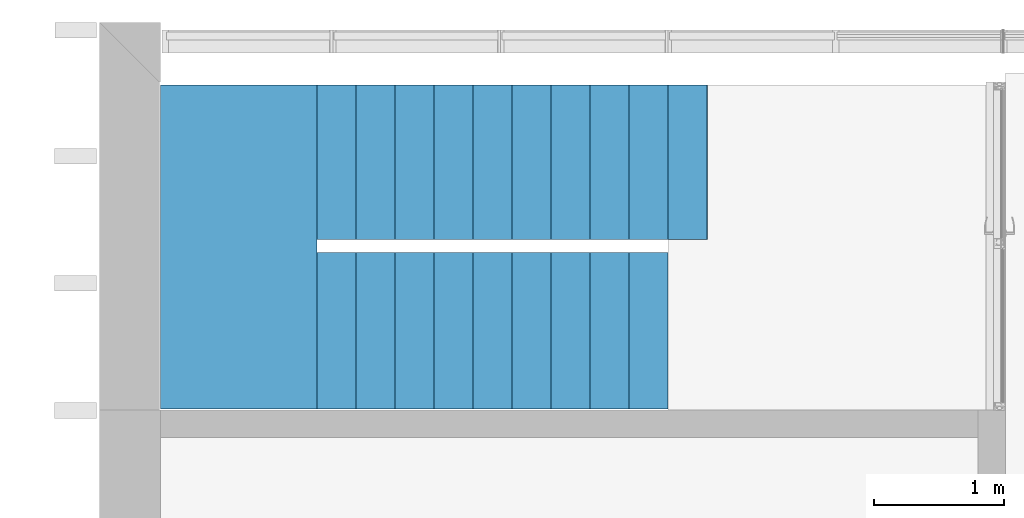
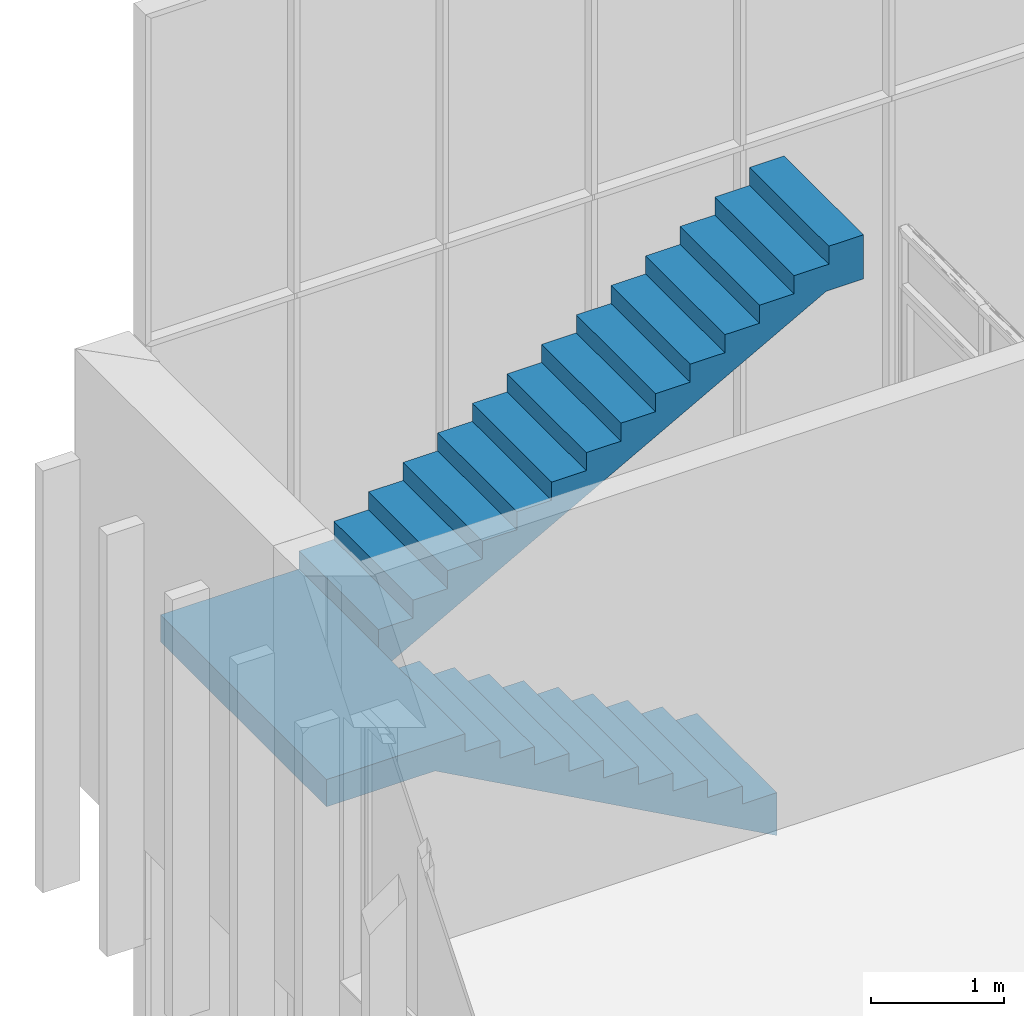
# One storey, part 37 of 62: 1 stair.
"""IFC2X3 building model written with IfcOpenShell, lengths in millimetres."""

from ifc_helpers import new_model, entity, si_unit, converted_unit, derived_unit, money_unit, direction, frame, origin_with_axes, place, context, subcontext, project, spatial, faceted_brep, material, material_list, element, save


model = new_model("IFC2X3")

# Units and contexts
model_context = context("Model", 3, precision=0.01, world=origin_with_axes(), true_north=direction((0.0, 1.0)))
body_context = subcontext(model_context, "Body", "Model", "MODEL_VIEW")
ifc_project = project(units=[si_unit("LENGTHUNIT", "METRE", prefix="MILLI"), si_unit("AREAUNIT", "SQUARE_METRE"), si_unit("VOLUMEUNIT", "CUBIC_METRE"), converted_unit("PLANEANGLEUNIT", "DEGREE", entity("IfcPlaneAngleMeasure", 0.0174532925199), si_unit("PLANEANGLEUNIT", "RADIAN"), dimensions=[0, 0, 0, 0, 0, 0, 0]), si_unit("SOLIDANGLEUNIT", "STERADIAN"), money_unit("EUR"), converted_unit("TIMEUNIT", "Year", entity("IfcTimeMeasure", 31556926.0), si_unit("TIMEUNIT", "SECOND"), dimensions=[0, 0, 1, 0, 0, 0, 0]), si_unit("MASSUNIT", "GRAM", prefix="KILO"), si_unit("THERMODYNAMICTEMPERATUREUNIT", "DEGREE_CELSIUS"), si_unit("LUMINOUSINTENSITYUNIT", "LUMEN"), si_unit("ENERGYUNIT", "JOULE", prefix="MEGA"), derived_unit("THERMALCONDUCTANCEUNIT", [(si_unit("POWERUNIT", "WATT"), 1), (si_unit("LENGTHUNIT", "METRE"), -1), (si_unit("THERMODYNAMICTEMPERATUREUNIT", "KELVIN"), -1)]), derived_unit("SPECIFICHEATCAPACITYUNIT", [(si_unit("ENERGYUNIT", "JOULE"), 1), (si_unit("MASSUNIT", "GRAM", prefix="KILO"), -1), (si_unit("THERMODYNAMICTEMPERATUREUNIT", "KELVIN"), -1)]), derived_unit("MASSDENSITYUNIT", [(si_unit("MASSUNIT", "GRAM", prefix="KILO"), 1), (si_unit("VOLUMEUNIT", "CUBIC_METRE"), -1)])], contexts=[model_context])

# Site, building, storey
site_placement = place(None, origin_with_axes())
site = spatial("IfcSite", under=ifc_project, at=site_placement, Name="Puškini 31, Narva", CompositionType="ELEMENT")
building_placement = place(site_placement, origin_with_axes())
building = spatial("IfcBuilding", under=site, at=building_placement, Name="Narva Riigigümnaasium", CompositionType="ELEMENT")
storey_placement = place(building_placement, frame((0.0, 0.0, 660.0), z_axis=(0.0, 0.0, 1.0), x_axis=(1.0, 0.0, 0.0)))
storey = spatial("IfcBuildingStorey", under=building, at=storey_placement, Name="2.korrus +0.66", CompositionType="ELEMENT", Elevation=660.0)

# Stair
ifc_material = material(Name="Betoon element")
ifc_material_list = material_list([ifc_material, ifc_material, ifc_material])
stair_placement = place(storey_placement, frame((32309.3294832, 222490.000046, 0.0), z_axis=(0.0, 0.0, 1.0), x_axis=(-1.0, 0.0, 0.0)))
element("IfcStair", 1, at=stair_placement, inside=storey, material=ifc_material_list, Name="G-TR-07", ShapeType="NOTDEFINED", context=body_context, shape_type="Brep", body=[
    faceted_brep([(2699.99998558, 3.18986024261e-05, 1400.0), (2699.99998558, 1200.00004687, 1400.0), (2699.99998558, 1200.00003245, 1485.0), (2700.0, 3.24517941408e-05, 1485.0), (2960.46224005, 3.18986024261e-05, 1400.0), (2960.46224005, 1200.00004687, 1400.0), (2699.99998558, 1200.00004687, 1256.74575579), (2599.99998558, 1200.00003125, 1201.74575579), (2499.99998558, 1200.00003005, 1146.74575579), (2399.99998558, 1200.00002885, 1091.74575579), (2324.99998558, 1200.00002794, 1050.49575579), (2299.99998558, 1200.00002764, 1036.74575579), (2249.99998558, 1200.00002704, 1009.24575579), (2199.99998558, 1200.00002644, 981.74575579), (2174.99998558, 1200.00002614, 967.99575579), (2099.99998558, 1200.00002524, 926.74575579), (2024.99998558, 1200.00002434, 885.49575579), (1949.99998558, 1200.00002344, 844.24575579), (1874.99998558, 1200.00002254, 802.99575579), (1799.99998558, 1200.00002163, 761.74575579), (1699.99998558, 1200.00002043, 706.74575579), (1599.99998558, 1200.00001923, 651.74575579), (1499.99998558, 1200.00001803, 596.74575579), (1424.99998558, 1200.00001713, 555.49575579), (1349.99998558, 1200.00001623, 514.24575579), (1274.99998558, 1200.00001532, 472.99575579), (1199.99998558, 1200.00001442, 431.74575579), (1124.99998558, 1200.00001352, 390.49575579), (1099.99998558, 1200.00001322, 376.74575579), (1049.99998558, 1200.00001262, 349.24575579), (999.999985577, 1200.00001202, 321.74575579), (974.999985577, 1200.00001172, 307.99575579), (899.999985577, 1200.00001082, 266.74575579), (824.999985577, 1200.00000992, 225.49575579), (749.999985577, 1200.00000901, 184.24575579), (674.999985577, 1200.00000811, 142.99575579), (599.999985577, 1200.00000721, 101.74575579), (524.999985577, 1200.00000631, 60.4957557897), (449.999985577, 1200.00000541, 19.2457557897), (374.999985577, 1200.00000451, -22.0042442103), (299.999985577, 1200.00000361, -63.2542442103), (199.999985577, 1200.0000024, -118.25424421), (99.999985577, 1200.0000012, -173.25424421), (-1.44230196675e-05, 1200.0, -228.25424421), (-1.44230196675e-05, 1200.0, 165.0), (299.999985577, 1200.00000361, 165.0), (299.999985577, 1200.00000361, 330.0), (599.999985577, 1200.00000721, 330.0), (599.999985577, 1200.00000721, 495.0), (899.999985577, 1200.00001082, 495.0), (899.999985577, 1200.00001082, 660.0), (1199.99998558, 1200.00001442, 660.0), (1199.99998558, 1200.00001442, 825.0), (1499.99998558, 1200.00001803, 825.0), (1499.99998558, 1200.00001803, 990.0), (1799.99998558, 1200.00002163, 990.0), (1799.99998558, 1200.00002163, 1155.0), (2099.99998558, 1200.00002524, 1155.0), (2099.99998558, 1200.00002524, 1320.0), (2399.99998558, 1200.00002885, 1320.0), (2399.99998558, 1200.00002885, 1485.0), (2400.0, 2.88460392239e-05, 1485.0), (2400.0, 2.88460392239e-05, 1320.0), (2100.0, 2.52402843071e-05, 1320.0), (2100.0, 2.52402843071e-05, 1155.0), (1800.0, 2.16345293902e-05, 1155.0), (1800.0, 2.16345293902e-05, 990.0), (1500.0, 1.80287744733e-05, 990.0), (1500.0, 1.80287744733e-05, 825.0), (1200.0, 1.44230196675e-05, 825.0), (1200.0, 1.44230196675e-05, 660.0), (900.0, 1.08172647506e-05, 660.0), (900.0, 1.08172647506e-05, 495.0), (600.0, 7.21150983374e-06, 495.0), (600.0, 7.21150983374e-06, 330.0), (300.0, 3.60575491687e-06, 330.0), (300.0, 3.60575491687e-06, 165.0), (0.0, 0.0, 165.0), (0.0, 0.0, -228.25424421), (100.0, 1.20191834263e-06, -173.25424421), (200.0, 2.40383646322e-06, -118.25424421), (300.0, 3.6057545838e-06, -63.2542442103), (375.0, 4.50719384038e-06, -22.0042442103), (450.0, 5.40863231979e-06, 19.2457557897), (525.0, 6.31007091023e-06, 60.4957557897), (600.0, 7.21150950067e-06, 101.74575579), (675.0, 8.11294842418e-06, 142.99575579), (750.0, 9.01438723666e-06, 184.24575579), (825.0, 9.91582616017e-06, 225.49575579), (900.0, 1.08172645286e-05, 266.74575579), (975.0, 1.1718703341e-05, 307.99575579), (1000.0, 1.20191828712e-05, 321.74575579), (1050.0, 1.26201421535e-05, 349.24575579), (1100.0, 1.32211014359e-05, 376.74575579), (1125.0, 1.3521580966e-05, 390.49575579), (1200.0, 1.44230197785e-05, 431.74575579), (1275.0, 1.532445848e-05, 472.99575579), (1350.0, 1.62258970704e-05, 514.24575579), (1425.0, 1.71273356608e-05, 555.49575579), (1500.0, 1.80287742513e-05, 596.74575579), (1600.0, 1.9230692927e-05, 651.74575579), (1700.0, 2.04326110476e-05, 706.74575579), (1800.0, 2.16345290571e-05, 761.74575579), (1875.0, 2.25359678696e-05, 802.99575579), (1950.0, 2.34374065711e-05, 844.24575579), (2025.0, 2.43388452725e-05, 885.49575579), (2100.0, 2.5240284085e-05, 926.74575579), (2175.0, 2.61417227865e-05, 967.99575579), (2200.0, 2.64422024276e-05, 981.74575579), (2250.0, 2.7043161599e-05, 1009.24575579), (2300.0, 2.76441207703e-05, 1036.74575579), (2325.0, 2.79446004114e-05, 1050.49575579), (2400.0, 2.88460391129e-05, 1091.74575579), (2500.0, 3.00479573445e-05, 1146.74575579), (2600.0, 3.12498755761e-05, 1201.74575579), (2699.99998558, 3.18986024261e-05, 1256.74574786)], [[[0, 1, 2, 3]], [[1, 0, 4, 5]], [[6, 7, 8, 9, 10, 11, 12, 13, 14, 15, 16, 17, 18, 19, 20, 21, 22, 23, 24, 25, 26, 27, 28, 29, 30, 31, 32, 33, 34, 35, 36, 37, 38, 39, 40, 41, 42, 43, 44, 45, 46, 47, 48, 49, 50, 51, 52, 53, 54, 55, 56, 57, 58, 59, 60, 2, 1, 5]], [[61, 3, 2, 60]], [[0, 3, 61, 62, 63, 64, 65, 66, 67, 68, 69, 70, 71, 72, 73, 74, 75, 76, 77, 78, 79, 80, 81, 82, 83, 84, 85, 86, 87, 88, 89, 90, 91, 92, 93, 94, 95, 96, 97, 98, 99, 100, 101, 102, 103, 104, 105, 106, 107, 108, 109, 110, 111, 112, 113, 114, 115, 4]], [[115, 114, 7, 6, 5, 4]], [[113, 8, 7, 114]], [[112, 9, 8, 113]], [[111, 10, 9, 112]], [[110, 11, 10, 111]], [[109, 12, 11, 110]], [[108, 13, 12, 109]], [[107, 14, 13, 108]], [[106, 15, 14, 107]], [[105, 16, 15, 106]], [[104, 17, 16, 105]], [[103, 18, 17, 104]], [[102, 19, 18, 103]], [[101, 20, 19, 102]], [[100, 21, 20, 101]], [[99, 22, 21, 100]], [[98, 23, 22, 99]], [[97, 24, 23, 98]], [[96, 25, 24, 97]], [[95, 26, 25, 96]], [[94, 27, 26, 95]], [[93, 28, 27, 94]], [[92, 29, 28, 93]], [[91, 30, 29, 92]], [[90, 31, 30, 91]], [[89, 32, 31, 90]], [[88, 33, 32, 89]], [[87, 34, 33, 88]], [[86, 35, 34, 87]], [[85, 36, 35, 86]], [[84, 37, 36, 85]], [[83, 38, 37, 84]], [[82, 39, 38, 83]], [[81, 40, 39, 82]], [[80, 41, 40, 81]], [[79, 42, 41, 80]], [[78, 43, 42, 79]], [[44, 43, 78, 77]], [[44, 77, 76, 45]], [[75, 46, 45, 76]], [[46, 75, 74, 47]], [[73, 48, 47, 74]], [[48, 73, 72, 49]], [[71, 50, 49, 72]], [[50, 71, 70, 51]], [[69, 52, 51, 70]], [[52, 69, 68, 53]], [[67, 54, 53, 68]], [[54, 67, 66, 55]], [[65, 56, 55, 66]], [[56, 65, 64, 57]], [[63, 58, 57, 64]], [[58, 63, 62, 59]], [[61, 60, 59, 62]]]),
    faceted_brep([(2739.53770702, -99.9999848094, 1650.0), (2739.53770702, -1289.99993504, 1650.0), (3899.99985214, -1289.99993504, 1650.0), (3900.00014897, 1200.00004687, 1650.0), (2699.99998558, 1200.00004687, 1650.0), (2699.99998558, -99.9999848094, 1650.0), (2739.53770702, -99.9999848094, 1400.0), (2739.53770702, -1289.99993504, 1400.0), (3899.99985214, -1289.99993504, 1400.0), (3900.00014897, 1200.00004687, 1400.0), (2699.99998558, 1200.00004687, 1400.0), (2699.99998558, -99.9999848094, 1400.0)], [[[0, 1, 2, 3, 4, 5]], [[1, 0, 6, 7]], [[1, 7, 8, 2]], [[2, 8, 9, 3]], [[3, 9, 10, 4]], [[11, 5, 4, 10]], [[0, 5, 11, 6]], [[6, 11, 10, 9, 8, 7]]]),
    faceted_brep([(-1100.00000463, -1289.99995478, 3511.7457549), (-1178.64408687, -1289.99995476, 3555.0), (-1178.64409252, -99.9999909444, 3555.0), (-1100.00001181, -99.99999047, 3511.74575547), (-1500.00000463, -1289.99995466, 3555.0), (-1000.00000463, -1289.99995482, 3456.74575524), (-900.000011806, -1289.99995494, 3401.7457555), (-862.500010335, -1289.99995494, 3381.12075584), (-825.000008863, -1289.99995494, 3360.49575618), (-812.500008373, -1289.99995494, 3353.62075605), (-800.000007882, -1289.99995494, 3346.74575592), (-775.000006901, -1289.99995494, 3332.99575567), (-750.00000592, -1289.99995494, 3319.24575542), (-725.000004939, -1289.99995494, 3305.49575524), (-700.000003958, -1289.99995494, 3291.74575505), (-687.500003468, -1289.99995494, 3284.87075496), (-675.000002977, -1289.99995494, 3277.99575486), (-637.500001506, -1289.99995494, 3257.37075434), (-600.000004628, -1289.99995494, 3236.74575383), (-562.500004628, -1289.99995472, 3216.1207545), (-525.000004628, -1289.99995449, 3195.49575517), (-487.500004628, -1289.99995427, 3174.87075519), (-450.000004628, -1289.99995404, 3154.24575521), (-412.500004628, -1289.99995381, 3133.62075535), (-375.000004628, -1289.99995359, 3112.99575549), (-337.500004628, -1289.99995336, 3092.37075555), (-300.000004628, -1289.99995313, 3071.74575562), (-200.000004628, -1289.99995253, 3016.74575569), (-100.000004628, -1289.99995193, 2961.74575574), (-4.62809612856e-06, -1289.99995132, 2906.74575577), (74.9999953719, -1289.99995087, 2865.49575579), (149.999995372, -1289.99995042, 2824.24575579), (224.999995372, -1289.99994997, 2782.99575579), (299.999995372, -1289.99994952, 2741.74575579), (399.999995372, -1289.99994891, 2686.74575579), (499.999995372, -1289.99994831, 2631.74575579), (599.999995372, -1289.99994771, 2576.74575579), (674.999995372, -1289.99994725, 2535.49575579), (749.999995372, -1289.9999468, 2494.24575579), (824.999995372, -1289.99994635, 2452.99575579), (899.999995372, -1289.9999459, 2411.74575579), (974.999995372, -1289.99994544, 2370.49575579), (999.999995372, -1289.99994529, 2356.74575579), (1049.99999537, -1289.99994499, 2329.24575579), (1099.99999537, -1289.99994469, 2301.74575579), (1124.99999537, -1289.99994454, 2287.99575579), (1199.99999537, -1289.99994409, 2246.74575579), (1299.99999537, -1289.99994348, 2191.74575579), (1399.99999537, -1289.99994288, 2136.74575579), (1499.99999537, -1289.99994228, 2081.74575578), (1574.99999537, -1289.99994182, 2040.49575574), (1649.99999537, -1289.99994137, 1999.2457557), (1724.99999537, -1289.99994092, 1957.99575562), (1799.99999537, -1289.99994047, 1916.74575549), (1874.99999537, -1289.99994001, 1875.49575531), (1899.99999537, -1289.99993986, 1861.74575521), (1949.99999537, -1289.99993956, 1834.24575504), (1999.99999537, -1289.99993926, 1806.7457549), (2024.99999537, -1289.99993911, 1792.9957548), (2099.99999537, -1289.99993866, 1751.74575468), (2174.99999537, -1289.9999382, 1710.49575476), (2199.99999537, -1289.99993805, 1696.74575487), (2249.99999537, -1289.99993775, 1669.24575494), (2299.99999537, -1289.99993745, 1641.74575507), (2324.99999537, -1289.9999373, 1627.99575516), (2399.99998819, -1289.99993685, 1586.74575522), (2437.49998972, -1289.99993685, 1566.1207557), (2474.99999125, -1289.99993685, 1545.49575617), (2487.49999176, -1289.99993685, 1538.62075613), (2499.99999227, -1289.99993685, 1531.74575609), (2524.99999329, -1289.99993685, 1517.99575601), (2549.99999431, -1289.99993685, 1504.24575593), (2574.99999533, -1289.99993685, 1490.49575598), (2599.99999635, -1289.99993685, 1476.74575603), (2612.49999686, -1289.99993685, 1469.87075606), (2624.99999736, -1289.99993685, 1462.99575609), (2662.49999889, -1289.99993685, 1442.37075624), (2699.99998558, -1289.99993504, 1421.74576456), (2739.53770702, -1289.99993504, 1400.00001802), (2739.53770702, -1289.99993504, 1650.0), (2699.99998558, -1289.99993504, 1650.0), (2700.00000042, -1289.99993685, 1815.0), (2399.99999537, -1289.99993685, 1815.0), (2399.99999537, -1289.99993685, 1980.0), (2099.99999537, -1289.99993866, 1980.0), (2099.99999537, -1289.99993866, 2145.0), (1799.99999537, -1289.99994047, 2145.0), (1799.99999537, -1289.99994047, 2310.0), (1499.99999537, -1289.99994228, 2310.0), (1499.99999537, -1289.99994228, 2475.0), (1199.99999537, -1289.99994409, 2475.0), (1199.99999537, -1289.99994409, 2640.0), (899.999995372, -1289.9999459, 2640.0), (899.999995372, -1289.9999459, 2805.0), (599.999995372, -1289.99994771, 2805.0), (599.999995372, -1289.99994771, 2970.0), (299.999995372, -1289.99994952, 2970.0), (299.999995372, -1289.99994952, 3135.0), (-4.62809612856e-06, -1289.99995132, 3135.0), (-4.62809612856e-06, -1289.99995132, 3300.0), (-300.000004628, -1289.99995313, 3300.0), (-300.000004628, -1289.99995313, 3465.0), (-600.000000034, -1289.99995494, 3465.0), (-600.000000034, -1289.99995494, 3630.0), (-900.000004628, -1289.99995485, 3630.0), (-900.000004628, -1289.99995485, 3795.0), (-1200.00000463, -1289.99995475, 3795.0), (-1200.00000463, -1289.99995475, 3960.0), (-1500.00000463, -1289.99995466, 3960.0), (-1500.00000463, -1289.99995466, 3731.7457557), (-1500.00001181, -99.9999928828, 3555.0), (-1500.00001181, -99.9999928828, 3731.74575588), (-1500.00001181, -99.9999928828, 3960.0), (-1200.00001181, -99.9999910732, 3960.0), (-1200.00001181, -99.9999910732, 3795.0), (-900.000011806, -99.9999892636, 3795.0), (-900.000011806, -99.9999892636, 3630.0), (-600.000017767, -99.999987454, 3630.0), (-600.000017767, -99.999987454, 3465.0), (-300.000011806, -99.9999856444, 3465.0), (-300.000011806, -99.9999856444, 3300.0), (-1.18062399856e-05, -99.9999838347, 3300.0), (-1.18062399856e-05, -99.9999838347, 3135.0), (299.999988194, -99.9999820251, 3135.0), (299.999988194, -99.9999820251, 2970.0), (599.999988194, -99.9999802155, 2970.0), (599.999988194, -99.9999802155, 2805.0), (899.999988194, -99.9999784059, 2805.0), (899.999988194, -99.9999784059, 2640.0), (1199.99998819, -99.9999765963, 2640.0), (1199.99998819, -99.9999765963, 2475.0), (1499.99998819, -99.9999747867, 2475.0), (1499.99998819, -99.9999747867, 2310.0), (1799.99998819, -99.999972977, 2310.0), (1799.99998819, -99.999972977, 2145.0), (2099.99998819, -99.9999711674, 2145.0), (2099.99998819, -99.9999711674, 1980.0), (2399.99998819, -99.9999693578, 1980.0), (2399.99998819, -99.9999693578, 1815.0), (2699.99998269, -99.9999675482, 1815.0), (2699.99998558, -99.9999848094, 1650.0), (2739.53770702, -99.9999848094, 1650.0), (2739.53770702, -99.9999848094, 1400.00000826), (2699.99998558, -99.9999848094, 1421.74575481), (2662.49998338, -99.9999675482, 1442.37075625), (2624.99998407, -99.9999675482, 1462.99575611), (2612.49998429, -99.9999675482, 1469.87075606), (2599.99998452, -99.9999675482, 1476.74575602), (2574.99998498, -99.9999675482, 1490.49575591), (2549.99998544, -99.9999675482, 1504.24575581), (2524.9999859, -99.9999675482, 1517.99575571), (2499.99998636, -99.9999675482, 1531.74575561), (2487.49998659, -99.9999675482, 1538.62075555), (2474.99998682, -99.9999675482, 1545.49575549), (2437.49998751, -99.9999675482, 1566.12075531), (2399.99998819, -99.9999693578, 1586.74575512), (2324.99998819, -99.9999698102, 1627.99575526), (2299.99998819, -99.999969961, 1641.74575535), (2249.99998819, -99.9999702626, 1669.24575542), (2199.99998819, -99.9999705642, 1696.74575553), (2174.99998819, -99.999970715, 1710.4957556), (2099.99998819, -99.9999711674, 1751.74575566), (2024.99998819, -99.9999716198, 1792.99575576), (1999.99998819, -99.9999717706, 1806.74575574), (1949.99998819, -99.9999720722, 1834.24575575), (1899.99998819, -99.9999723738, 1861.74575577), (1874.99998819, -99.9999725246, 1875.49575574), (1799.99998819, -99.999972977, 1916.74575577), (1724.99998819, -99.9999734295, 1957.99575578), (1649.99998819, -99.9999738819, 1999.24575578), (1574.99998819, -99.9999743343, 2040.49575578), (1499.99998819, -99.9999747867, 2081.74575579), (1399.99998819, -99.9999753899, 2136.74575579), (1299.99998819, -99.9999759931, 2191.74575579), (1199.99998819, -99.9999765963, 2246.74575579), (1124.99998819, -99.9999770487, 2287.99575579), (1099.99998819, -99.9999771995, 2301.74575579), (1049.99998819, -99.9999775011, 2329.24575579), (999.999988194, -99.9999778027, 2356.74575579), (974.999988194, -99.9999779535, 2370.49575579), (899.999988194, -99.9999784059, 2411.74575579), (824.999988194, -99.9999788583, 2452.99575579), (749.999988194, -99.9999793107, 2494.24575579), (674.999988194, -99.9999797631, 2535.49575579), (599.999988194, -99.9999802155, 2576.74575579), (499.999988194, -99.9999808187, 2631.74575579), (399.999988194, -99.9999814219, 2686.74575579), (299.999988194, -99.9999820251, 2741.74575579), (224.999988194, -99.9999824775, 2782.99575579), (149.999988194, -99.9999829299, 2824.24575579), (74.9999881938, -99.9999833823, 2865.49575579), (-1.18062399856e-05, -99.9999838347, 2906.74575579), (-100.000011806, -99.999984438, 2961.74575579), (-200.000011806, -99.9999850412, 3016.74575579), (-300.000011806, -99.9999856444, 3071.74575578), (-337.500011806, -99.9999858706, 3092.37075577), (-375.000011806, -99.9999860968, 3112.99575573), (-412.500011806, -99.999986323, 3133.62075568), (-450.000011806, -99.9999865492, 3154.24575563), (-487.500011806, -99.9999867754, 3174.87075548), (-525.000011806, -99.9999870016, 3195.49575533), (-562.500011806, -99.9999872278, 3216.12075589), (-600.000011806, -99.999987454, 3236.74575317), (-637.500017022, -99.999987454, 3257.3707562), (-675.000016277, -99.999987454, 3277.99575595), (-687.500016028, -99.999987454, 3284.87075587), (-700.00001578, -99.999987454, 3291.74575579), (-725.000015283, -99.999987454, 3305.49575572), (-750.000014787, -99.999987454, 3319.24575566), (-775.00001429, -99.999987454, 3332.99575559), (-800.000013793, -99.999987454, 3346.74575552), (-812.500013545, -99.999987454, 3353.62075546), (-825.000013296, -99.999987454, 3360.4957554), (-862.500012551, -99.999987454, 3381.12075522), (-900.000011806, -99.9999892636, 3401.74575504), (-1000.00001181, -99.9999898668, 3456.74575528), (-900.000011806, -397.499979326, 3401.74575515), (-900.000011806, -992.499963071, 3401.74575538), (-825.000009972, -992.499963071, 3360.49575598), (-800.00000936, -992.499963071, 3346.74575582), (-750.000008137, -992.499963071, 3319.24575548), (-700.000006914, -992.499963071, 3291.74575523), (-675.000006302, -992.499963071, 3277.99575514), (-600.000006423, -992.499963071, 3236.74575448), (-525.000006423, -992.499962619, 3195.49575521), (-450.000006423, -992.499962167, 3154.24575532), (-375.000006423, -992.499961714, 3112.99575555), (-300.000006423, -992.499961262, 3071.74575566), (-300.000010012, -397.499977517, 3071.74575574), (2399.99998819, -397.499959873, 1586.74575515), (2399.99998819, -992.499944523, 1586.74575519), (2474.99999014, -992.499944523, 1545.495756), (2499.99999079, -992.499944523, 1531.74575597), (2549.99999209, -992.499944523, 1504.2457559), (2599.99999339, -992.499944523, 1476.74575603), (2624.99999404, -992.499944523, 1462.99575609), (2699.99998558, -992.499944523, 1421.74576212), (2699.99998558, -397.499959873, 1421.74575725), (2624.99998739, -397.499959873, 1462.99575611), (2599.99998748, -397.499959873, 1476.74575602), (2549.99998766, -397.499959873, 1504.24575584), (2499.99998784, -397.499959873, 1531.74575573), (2474.99998793, -397.499959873, 1545.49575566), (-375.000010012, -397.499977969, 3112.99575567), (-450.000010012, -397.499978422, 3154.24575553), (-525.000010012, -397.499978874, 3195.49575529), (-600.000010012, -397.499979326, 3236.74575397), (-675.000012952, -397.499979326, 3277.99575568), (-700.000012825, -397.499979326, 3291.74575561), (-750.00001257, -397.499979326, 3319.2457556), (-800.000012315, -397.499979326, 3346.74575562), (-825.000012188, -397.499979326, 3360.4957556), (-862.500011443, -694.999971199, 3381.12075553), (-812.500010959, -694.999971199, 3353.62075576), (-775.000010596, -694.999971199, 3332.99575563), (-725.000010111, -694.999971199, 3305.49575548), (-687.500009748, -694.999971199, 3284.87075541), (-637.500009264, -694.999971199, 3257.37075527), (-562.500008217, -694.999970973, 3216.12075519), (-487.500008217, -694.99997052, 3174.87075534), (-412.500008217, -694.999970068, 3133.62075552), (-337.500008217, -694.999969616, 3092.37075566), (2437.49998861, -694.999952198, 1566.1207555), (2487.49998917, -694.999952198, 1538.62075584), (2524.99998959, -694.999952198, 1517.99575586), (2574.99999015, -694.999952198, 1490.49575595), (2612.49999058, -694.999952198, 1469.87075606), (2662.49999114, -694.999952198, 1442.37075625)], [[[0, 1, 2, 3]], [[4, 1, 0, 5, 6, 7, 8, 9, 10, 11, 12, 13, 14, 15, 16, 17, 18, 19, 20, 21, 22, 23, 24, 25, 26, 27, 28, 29, 30, 31, 32, 33, 34, 35, 36, 37, 38, 39, 40, 41, 42, 43, 44, 45, 46, 47, 48, 49, 50, 51, 52, 53, 54, 55, 56, 57, 58, 59, 60, 61, 62, 63, 64, 65, 66, 67, 68, 69, 70, 71, 72, 73, 74, 75, 76, 77, 78, 79, 80, 81, 82, 83, 84, 85, 86, 87, 88, 89, 90, 91, 92, 93, 94, 95, 96, 97, 98, 99, 100, 101, 102, 103, 104, 105, 106, 107, 108, 109]], [[110, 2, 1, 4]], [[3, 2, 110, 111, 112, 113, 114, 115, 116, 117, 118, 119, 120, 121, 122, 123, 124, 125, 126, 127, 128, 129, 130, 131, 132, 133, 134, 135, 136, 137, 138, 139, 140, 141, 142, 143, 144, 145, 146, 147, 148, 149, 150, 151, 152, 153, 154, 155, 156, 157, 158, 159, 160, 161, 162, 163, 164, 165, 166, 167, 168, 169, 170, 171, 172, 173, 174, 175, 176, 177, 178, 179, 180, 181, 182, 183, 184, 185, 186, 187, 188, 189, 190, 191, 192, 193, 194, 195, 196, 197, 198, 199, 200, 201, 202, 203, 204, 205, 206, 207, 208, 209, 210, 211, 212, 213, 214, 215]], [[3, 215, 5, 0]], [[216, 217, 6, 5, 215, 214]], [[217, 7, 6]], [[218, 8, 7]], [[218, 9, 8]], [[219, 10, 9]], [[219, 11, 10]], [[220, 12, 11]], [[220, 13, 12]], [[221, 14, 13]], [[221, 15, 14]], [[222, 16, 15]], [[222, 17, 16]], [[223, 18, 17]], [[223, 19, 18]], [[224, 20, 19]], [[224, 21, 20]], [[225, 22, 21]], [[225, 23, 22]], [[226, 24, 23]], [[226, 25, 24]], [[227, 26, 25]], [[27, 26, 227, 228, 194, 193]], [[193, 192, 28, 27]], [[192, 191, 29, 28]], [[191, 190, 30, 29]], [[190, 189, 31, 30]], [[189, 188, 32, 31]], [[188, 187, 33, 32]], [[187, 186, 34, 33]], [[186, 185, 35, 34]], [[185, 184, 36, 35]], [[184, 183, 37, 36]], [[183, 182, 38, 37]], [[182, 181, 39, 38]], [[181, 180, 40, 39]], [[180, 179, 41, 40]], [[179, 178, 42, 41]], [[178, 177, 43, 42]], [[177, 176, 44, 43]], [[176, 175, 45, 44]], [[175, 174, 46, 45]], [[174, 173, 47, 46]], [[173, 172, 48, 47]], [[172, 171, 49, 48]], [[171, 170, 50, 49]], [[170, 169, 51, 50]], [[169, 168, 52, 51]], [[168, 167, 53, 52]], [[167, 166, 54, 53]], [[166, 165, 55, 54]], [[165, 164, 56, 55]], [[164, 163, 57, 56]], [[163, 162, 58, 57]], [[162, 161, 59, 58]], [[161, 160, 60, 59]], [[160, 159, 61, 60]], [[159, 158, 62, 61]], [[158, 157, 63, 62]], [[157, 156, 64, 63]], [[229, 230, 65, 64, 156, 155]], [[230, 66, 65]], [[231, 67, 66]], [[231, 68, 67]], [[232, 69, 68]], [[232, 70, 69]], [[233, 71, 70]], [[233, 72, 71]], [[234, 73, 72]], [[234, 74, 73]], [[235, 75, 74]], [[235, 76, 75]], [[236, 77, 76]], [[78, 77, 236, 237, 143, 142]], [[141, 79, 78, 142]], [[80, 79, 141, 140]], [[140, 139, 81, 80]], [[139, 138, 82, 81]], [[83, 82, 138, 137]], [[137, 136, 84, 83]], [[85, 84, 136, 135]], [[135, 134, 86, 85]], [[87, 86, 134, 133]], [[133, 132, 88, 87]], [[89, 88, 132, 131]], [[131, 130, 90, 89]], [[91, 90, 130, 129]], [[129, 128, 92, 91]], [[93, 92, 128, 127]], [[127, 126, 94, 93]], [[95, 94, 126, 125]], [[125, 124, 96, 95]], [[97, 96, 124, 123]], [[123, 122, 98, 97]], [[99, 98, 122, 121]], [[121, 120, 100, 99]], [[101, 100, 120, 119]], [[119, 118, 102, 101]], [[103, 102, 118, 117]], [[117, 116, 104, 103]], [[105, 104, 116, 115]], [[115, 114, 106, 105]], [[107, 106, 114, 113]], [[113, 112, 108, 107]], [[108, 112, 111, 109]], [[110, 4, 109, 111]], [[143, 237, 144]], [[238, 145, 144]], [[238, 146, 145]], [[239, 147, 146]], [[239, 148, 147]], [[240, 149, 148]], [[240, 150, 149]], [[241, 151, 150]], [[241, 152, 151]], [[242, 153, 152]], [[242, 154, 153]], [[229, 155, 154]], [[228, 195, 194]], [[243, 196, 195]], [[243, 197, 196]], [[244, 198, 197]], [[244, 199, 198]], [[245, 200, 199]], [[245, 201, 200]], [[246, 202, 201]], [[246, 203, 202]], [[247, 204, 203]], [[247, 205, 204]], [[248, 206, 205]], [[248, 207, 206]], [[249, 208, 207]], [[249, 209, 208]], [[250, 210, 209]], [[250, 211, 210]], [[251, 212, 211]], [[251, 213, 212]], [[216, 214, 213]], [[216, 252, 217]], [[218, 7, 217, 252]], [[219, 9, 218, 253]], [[220, 11, 219, 254]], [[221, 13, 220, 255]], [[256, 222, 15, 221]], [[257, 223, 17, 222]], [[224, 19, 223, 258]], [[225, 21, 224, 259]], [[226, 23, 225, 260]], [[227, 25, 226, 261]], [[261, 228, 227]], [[230, 229, 262]], [[231, 66, 230, 262]], [[232, 68, 231, 263]], [[233, 70, 232, 264]], [[265, 234, 72, 233]], [[266, 235, 74, 234]], [[236, 76, 235, 267]], [[237, 236, 267]], [[237, 267, 238, 144]], [[238, 266, 239, 146]], [[148, 239, 265, 240]], [[240, 264, 241, 150]], [[152, 241, 263, 242]], [[242, 262, 229, 154]], [[228, 261, 243, 195]], [[197, 243, 260, 244]], [[244, 259, 245, 199]], [[245, 258, 246, 201]], [[203, 246, 257, 247]], [[205, 247, 256, 248]], [[207, 248, 255, 249]], [[209, 249, 254, 250]], [[250, 253, 251, 211]], [[251, 252, 216, 213]], [[252, 251, 218]], [[251, 253, 218]], [[253, 250, 219]], [[250, 254, 219]], [[220, 254, 249]], [[249, 255, 220]], [[255, 248, 221]], [[256, 247, 222]], [[248, 256, 221]], [[223, 257, 246]], [[222, 247, 257]], [[223, 246, 258]], [[258, 245, 224]], [[224, 245, 259]], [[225, 259, 244]], [[244, 260, 225]], [[260, 243, 226]], [[226, 243, 261]], [[231, 262, 242]], [[231, 242, 263]], [[232, 263, 241]], [[241, 264, 232]], [[233, 264, 240]], [[234, 265, 239]], [[233, 240, 265]], [[235, 266, 238]], [[239, 266, 234]], [[235, 238, 267]]]),
])

save(model, "model.ifc")
